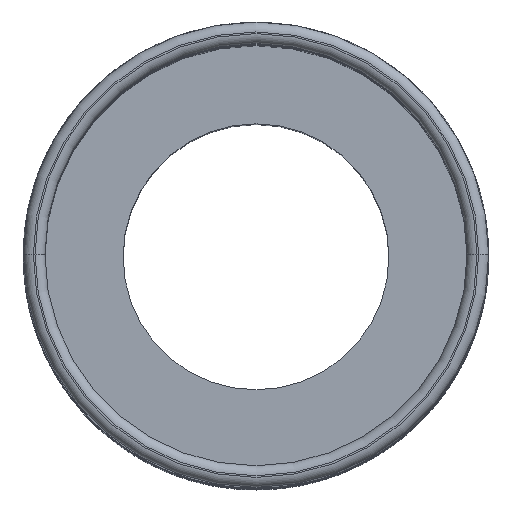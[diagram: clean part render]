
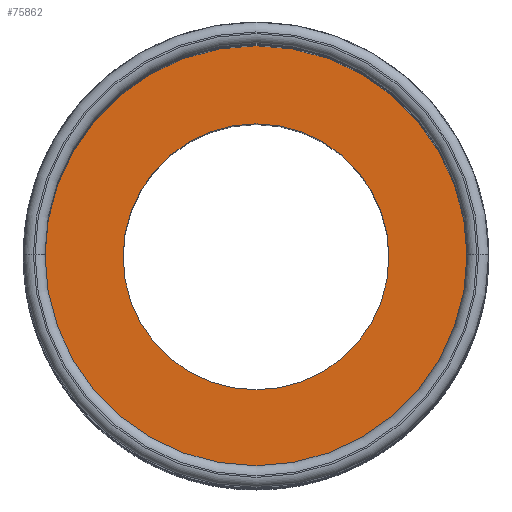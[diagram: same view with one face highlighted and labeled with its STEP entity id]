
A CAD part, top view. The second image highlights one B-rep face of the part: STEP entity #75862.
In plain terms, the highlighted planar face has unit normal (0, 0, 1).
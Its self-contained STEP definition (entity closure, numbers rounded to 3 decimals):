
#3738 = CARTESIAN_POINT ( 'NONE',  ( 19.05, 0., 29. ) ) ;
#7015 = DIRECTION ( 'NONE',  ( 0., 0., -1. ) ) ;
#7017 = CARTESIAN_POINT ( 'NONE',  ( 0., 0., 29. ) ) ;
#7019 = AXIS2_PLACEMENT_3D ( 'NONE', #7017, #7015, #7114 ) ;
#7020 = CIRCLE ( 'NONE', #7019, 19.05 ) ;
#7112 = CARTESIAN_POINT ( 'NONE',  ( -19.05, 0., 29. ) ) ;
#7114 = DIRECTION ( 'NONE',  ( -1., 0., 0. ) ) ;
#30316 = CARTESIAN_POINT ( 'NONE',  ( -12., 0., 29. ) ) ;
#30318 = DIRECTION ( 'NONE',  ( -1., 0., 0. ) ) ;
#30320 = DIRECTION ( 'NONE',  ( 0., 0., -1. ) ) ;
#30322 = CARTESIAN_POINT ( 'NONE',  ( 0., 0., 29. ) ) ;
#30324 = AXIS2_PLACEMENT_3D ( 'NONE', #30322, #30320, #30318 ) ;
#30325 = CIRCLE ( 'NONE', #30324, 12. ) ;
#30332 = CARTESIAN_POINT ( 'NONE',  ( 12., 0., 29. ) ) ;
#35843 = VERTEX_POINT ( 'NONE', #3738 ) ;
#36418 = EDGE_CURVE ( 'NONE', #35843, #36419, #7020, .T. ) ;
#36419 = VERTEX_POINT ( 'NONE', #7112 ) ;
#73167 = DIRECTION ( 'NONE',  ( 1., 0., 0. ) ) ;
#73168 = DIRECTION ( 'NONE',  ( 0., 0., 1. ) ) ;
#73169 = AXIS2_PLACEMENT_3D ( 'NONE', #73178, #73168, #73167 ) ;
#73178 = CARTESIAN_POINT ( 'NONE',  ( -19.279, -19.279, 29. ) ) ;
#73179 = PLANE ( 'NONE',  #73169 ) ;
#73180 = FACE_BOUND ( 'NONE', #75923, .T. ) ;
#73182 = FACE_OUTER_BOUND ( 'NONE', #75863, .T. ) ;
#73210 = CARTESIAN_POINT ( 'NONE',  ( 0., 0., 29. ) ) ;
#73503 = AXIS2_PLACEMENT_3D ( 'NONE', #73210, #73565, #73564 ) ;
#73504 = CIRCLE ( 'NONE', #73503, 19.05 ) ;
#73559 = DIRECTION ( 'NONE',  ( -1., 0., 0. ) ) ;
#73560 = DIRECTION ( 'NONE',  ( 0., 0., -1. ) ) ;
#73561 = CARTESIAN_POINT ( 'NONE',  ( 0., 0., 29. ) ) ;
#73562 = AXIS2_PLACEMENT_3D ( 'NONE', #73561, #73560, #73559 ) ;
#73563 = CIRCLE ( 'NONE', #73562, 12. ) ;
#73564 = DIRECTION ( 'NONE',  ( -1., 0., 0. ) ) ;
#73565 = DIRECTION ( 'NONE',  ( 0., 0., -1. ) ) ;
#75862 = ADVANCED_FACE ( 'NONE', ( #73182, #73180 ), #73179, .T. ) ;
#75863 = EDGE_LOOP ( 'NONE', ( #75920, #75922 ) ) ;
#75920 = ORIENTED_EDGE ( 'NONE', *, *, #75921, .F. ) ;
#75921 = EDGE_CURVE ( 'NONE', #36419, #35843, #73504, .T. ) ;
#75922 = ORIENTED_EDGE ( 'NONE', *, *, #36418, .F. ) ;
#75923 = EDGE_LOOP ( 'NONE', ( #75924, #75926 ) ) ;
#75924 = ORIENTED_EDGE ( 'NONE', *, *, #75925, .T. ) ;
#75925 = EDGE_CURVE ( 'NONE', #76341, #76338, #73563, .T. ) ;
#75926 = ORIENTED_EDGE ( 'NONE', *, *, #76339, .T. ) ;
#76338 = VERTEX_POINT ( 'NONE', #30332 ) ;
#76339 = EDGE_CURVE ( 'NONE', #76338, #76341, #30325, .T. ) ;
#76341 = VERTEX_POINT ( 'NONE', #30316 ) ;
